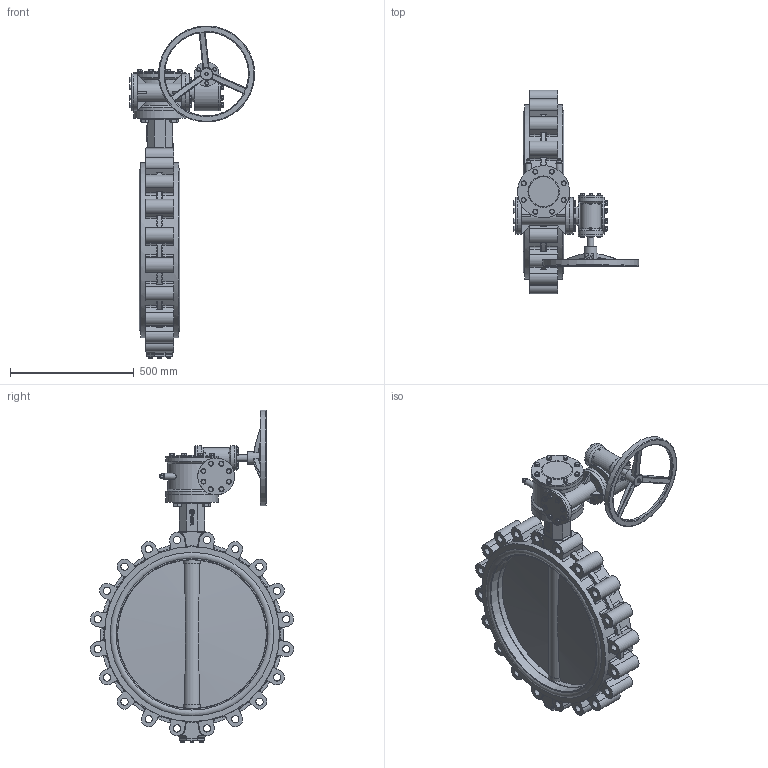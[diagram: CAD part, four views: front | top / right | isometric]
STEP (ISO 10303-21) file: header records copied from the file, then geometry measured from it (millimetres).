
FILE_DESCRIPTION(('STEP AP242'), '1');
FILE_NAME('Ïîâîðîòíûé çàòâîð ïîä ýëåêòðîïðèâîä', '', ('UNSPECIFIED'), ('UNSPECIFIED'), 'C3D Converter', 'C3D Toolkit', '');
FILE_SCHEMA(('AP242_MANAGED_MODEL_BASED_3D_ENGINEERING_MIM_LF { 1 0 10303 442 1 1 4 }'));
Length unit declared in the file: millimetre
Products named in the file (29): П; ШМ.М12.40
Assembly tree (130 placements, depth 3):
  (unnamed)
    (unnamed)
    П  x2
    (unnamed)
    (unnamed)
    (unnamed)
    (unnamed)
    (unnamed)  x4
    (unnamed)
      (unnamed)
      (unnamed)
      (unnamed)  x2
      (unnamed)
      (unnamed)
      (unnamed)
      (unnamed)
      (unnamed)
      (unnamed)  x2
      (unnamed)  x2
      (unnamed)  x32
      (unnamed)  x16
      (unnamed)  x8
      (unnamed)  x8
      ШМ.М12.40  x8
      (unnamed)  x12
      (unnamed)  x12
      (unnamed)
    (unnamed)  x4
    (unnamed)  x4
Bounding box: 505.04 x 820.51 x 1339.04 mm (x, y, z)
Volume: 47647037.5 mm3; surface area: 4397084 mm2
Topology: 129 solids, 129 shells, 2204 faces, 5003 edges, 3172 vertices
Faces by surface type: plane 1032, cylinder 583, torus 186, extrusion 175, cone 171, bspline 53, sphere 4
Full cylindrical faces by diameter (mm): 6 x2, 8 x40, 8.4 x12, 10 x12, 10.647 x10, 12 x100, 13 x32, 15 x12, 16 x8, 18.845 x1, 20 x36, 21 x4, 22 x8, 24 x2, 26 x4, 29.211 x20, 34 x4, 46 x5, 50.6 x1, 51 x1, 65.054 x5, 73.15 x4, 73.5 x2, 99 x4, 121 x1, 148.5 x6, 195 x1, 210 x4, 338 x1, 348 x1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
Entity records: 61700 total; most frequent: CARTESIAN_POINT 25271, DIRECTION 6053, ORIENTED_EDGE 6044, EDGE_CURVE 3022, AXIS2_PLACEMENT_3D 2348, VERTEX_POINT 2087, EDGE_LOOP 1861, FACE_BOUND 1404
